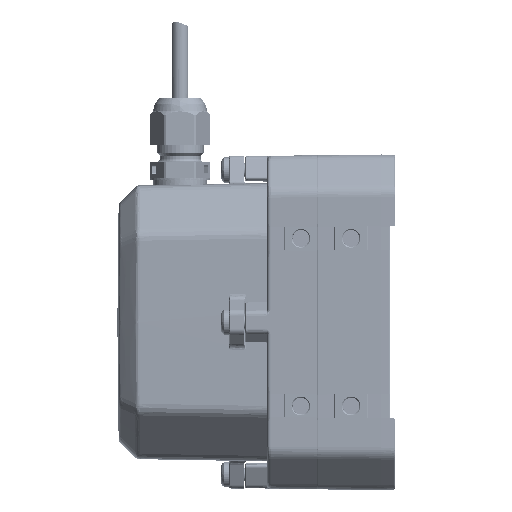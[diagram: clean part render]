
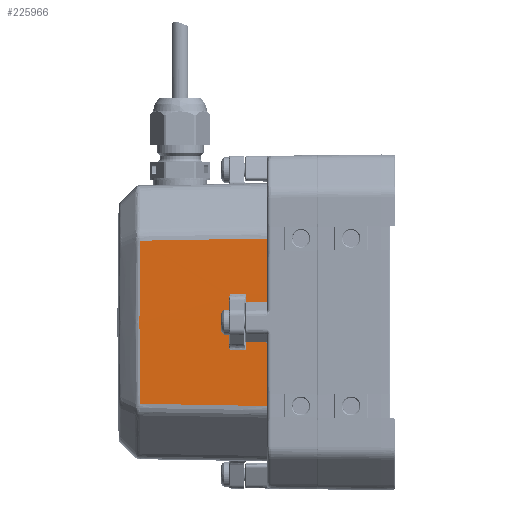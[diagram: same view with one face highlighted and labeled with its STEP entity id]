
A CAD part, front view. The second image highlights one B-rep face of the part: STEP entity #225966.
In plain terms, the highlighted conical face has half-angle 1 degrees and reference radius 2111.38 mm.
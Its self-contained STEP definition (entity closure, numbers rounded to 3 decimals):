
#1786=CARTESIAN_POINT('',(-14.8,2070.212,0.));
#1787=DIRECTION('',(1.,0.,0.));
#1788=DIRECTION('',(0.,-1.,0.012));
#1789=AXIS2_PLACEMENT_3D('',#1786,#1787,#1788);
#60704=CARTESIAN_POINT('',(-52.731,-40.698,
-24.32));
#60705=CARTESIAN_POINT('',(-48.518,-40.771,
-24.393));
#60706=CARTESIAN_POINT('',(-40.091,-40.916,
-24.539));
#60707=CARTESIAN_POINT('',(-27.448,-41.134,
-24.759));
#60708=CARTESIAN_POINT('',(-19.016,-41.28,
-24.906));
#60709=CARTESIAN_POINT('',(-14.8,-41.352,-24.979));
#60711=CARTESIAN_POINT('',(-52.731,-40.698,
-24.32));
#60712=CARTESIAN_POINT('',(-52.77,-40.728,
-21.617));
#60713=CARTESIAN_POINT('',(-52.836,-40.779,
-16.213));
#60714=CARTESIAN_POINT('',(-52.895,-40.825,
-8.103));
#60715=CARTESIAN_POINT('',(-52.908,-40.835,
-2.701));
#60716=CARTESIAN_POINT('',(-52.908,-40.835,
0.));
#60718=CARTESIAN_POINT('',(-52.908,-40.835,
0.));
#60719=CARTESIAN_POINT('',(-52.908,-40.835,
2.701));
#60720=CARTESIAN_POINT('',(-52.895,-40.825,
8.104));
#60721=CARTESIAN_POINT('',(-52.836,-40.779,
16.213));
#60722=CARTESIAN_POINT('',(-52.77,-40.728,
21.617));
#60723=CARTESIAN_POINT('',(-52.731,-40.698,
24.32));
#60725=CARTESIAN_POINT('',(-14.8,-41.352,24.979));
#60726=CARTESIAN_POINT('',(-19.016,-41.28,
24.906));
#60727=CARTESIAN_POINT('',(-27.448,-41.134,
24.759));
#60728=CARTESIAN_POINT('',(-40.091,-40.916,
24.539));
#60729=CARTESIAN_POINT('',(-48.518,-40.771,
24.393));
#60730=CARTESIAN_POINT('',(-52.731,-40.698,
24.32));
#60732=CARTESIAN_POINT('',(-26.297,2070.212,
0.));
#60733=DIRECTION('',(-1.,0.,0.));
#60734=DIRECTION('',(0.,-1.,-0.003));
#60735=AXIS2_PLACEMENT_3D('',#60732,#60733,#60734);
#60737=CARTESIAN_POINT('',(-25.903,-41.29,
-8.297));
#60738=CARTESIAN_POINT('',(-25.946,-41.289,
-8.208));
#60739=CARTESIAN_POINT('',(-26.026,-41.289,
-8.036));
#60740=CARTESIAN_POINT('',(-26.129,-41.288,
-7.796));
#60741=CARTESIAN_POINT('',(-26.207,-41.287,
-7.577));
#60742=CARTESIAN_POINT('',(-26.26,-41.287,
-7.378));
#60743=CARTESIAN_POINT('',(-26.29,-41.287,
-7.199));
#60744=CARTESIAN_POINT('',(-26.297,-41.287,
-7.093));
#60745=CARTESIAN_POINT('',(-26.297,-41.288,
-7.043));
#60747=CARTESIAN_POINT('',(-21.091,2070.212,
0.));
#60748=DIRECTION('',(1.,0.,0.));
#60749=DIRECTION('',(0.,-1.,0.004));
#60750=AXIS2_PLACEMENT_3D('',#60747,#60748,#60749);
#60752=CARTESIAN_POINT('',(-26.297,-41.288,
7.043));
#60753=CARTESIAN_POINT('',(-26.297,-41.287,
7.093));
#60754=CARTESIAN_POINT('',(-26.29,-41.287,
7.199));
#60755=CARTESIAN_POINT('',(-26.26,-41.287,
7.379));
#60756=CARTESIAN_POINT('',(-26.206,-41.287,
7.579));
#60757=CARTESIAN_POINT('',(-26.128,-41.288,
7.798));
#60758=CARTESIAN_POINT('',(-26.026,-41.289,
8.037));
#60759=CARTESIAN_POINT('',(-25.946,-41.289,
8.208));
#60760=CARTESIAN_POINT('',(-25.903,-41.29,
8.297));
#60779=CARTESIAN_POINT('',(-52.731,-40.698,
-24.32));
#63116=CARTESIAN_POINT('',(-25.903,-41.29,
8.297));
#63123=CARTESIAN_POINT('',(-25.903,-41.29,
8.297));
#63124=CARTESIAN_POINT('',(-24.299,-41.318,
8.315));
#63125=CARTESIAN_POINT('',(-22.695,-41.346,
8.333));
#63126=CARTESIAN_POINT('',(-21.091,-41.374,
8.351));
#63226=CARTESIAN_POINT('',(-21.091,-41.374,
-8.351));
#63227=CARTESIAN_POINT('',(-22.695,-41.346,
-8.333));
#63228=CARTESIAN_POINT('',(-24.299,-41.318,
-8.315));
#63229=CARTESIAN_POINT('',(-25.903,-41.29,
-8.297));
#78774=VERTEX_POINT('',#60779);
#78775=VERTEX_POINT('',#60716);
#78776=VERTEX_POINT('',#60723);
#78898=CARTESIAN_POINT('',(-26.297,-41.288,
-7.043));
#78899=CARTESIAN_POINT('',(-26.297,-41.288,
7.043));
#78900=VERTEX_POINT('',#78898);
#78901=VERTEX_POINT('',#78899);
#78946=CARTESIAN_POINT('',(-21.091,-41.374,
8.351));
#78947=CARTESIAN_POINT('',(-21.091,-41.374,
-8.351));
#78948=VERTEX_POINT('',#78946);
#78949=VERTEX_POINT('',#78947);
#79087=VERTEX_POINT('',#63116);
#79088=VERTEX_POINT('',#60737);
#79097=CARTESIAN_POINT('',(-14.8,-41.352,24.979));
#79098=CARTESIAN_POINT('',(-14.8,-41.352,-24.979));
#79099=VERTEX_POINT('',#79097);
#79100=VERTEX_POINT('',#79098);
#225937=CARTESIAN_POINT('',(-33.854,2070.212,
0.));
#225938=DIRECTION('',(1.,0.,0.));
#225939=DIRECTION('',(0.,-1.,0.));
#225940=AXIS2_PLACEMENT_3D('',#225937,#225938,#225939);
#225941=CONICAL_SURFACE('',#225940,2111.38,1.);
#225943=ORIENTED_EDGE('',*,*,#225942,.F.);
#225945=ORIENTED_EDGE('',*,*,#225944,.T.);
#225947=ORIENTED_EDGE('',*,*,#225946,.T.);
#225948=ORIENTED_EDGE('',*,*,#225915,.F.);
#225949=ORIENTED_EDGE('',*,*,#83845,.T.);
#225950=EDGE_LOOP('',(#225943,#225945,#225947,#225948,#225949));
#225951=FACE_OUTER_BOUND('',#225950,.F.);
#225953=ORIENTED_EDGE('',*,*,#225952,.F.);
#225955=ORIENTED_EDGE('',*,*,#225954,.F.);
#225957=ORIENTED_EDGE('',*,*,#225956,.F.);
#225959=ORIENTED_EDGE('',*,*,#225958,.F.);
#225961=ORIENTED_EDGE('',*,*,#225960,.F.);
#225963=ORIENTED_EDGE('',*,*,#225962,.F.);
#225964=EDGE_LOOP('',(#225953,#225955,#225957,#225959,#225961,#225963));
#225965=FACE_BOUND('',#225964,.F.);
#1790=CIRCLE('',#1789,2111.712);
#60710=B_SPLINE_CURVE_WITH_KNOTS('',3,(#60704,#60705,#60706,#60707,#60708,
#60709),.UNSPECIFIED.,.F.,.F.,(4,1,1,4),(0.,0.333,
0.667,1.),.UNSPECIFIED.);
#60717=B_SPLINE_CURVE_WITH_KNOTS('',3,(#60711,#60712,#60713,#60714,#60715,
#60716),.UNSPECIFIED.,.F.,.F.,(4,1,1,4),(0.,0.333,
0.667,1.),.UNSPECIFIED.);
#60724=B_SPLINE_CURVE_WITH_KNOTS('',3,(#60718,#60719,#60720,#60721,#60722,
#60723),.UNSPECIFIED.,.F.,.F.,(4,1,1,4),(0.,0.333,
0.667,1.),.UNSPECIFIED.);
#60731=B_SPLINE_CURVE_WITH_KNOTS('',3,(#60725,#60726,#60727,#60728,#60729,
#60730),.UNSPECIFIED.,.F.,.F.,(4,1,1,4),(0.,0.333,
0.667,1.),.UNSPECIFIED.);
#60736=CIRCLE('',#60735,2111.512);
#60746=B_SPLINE_CURVE_WITH_KNOTS('',3,(#60737,#60738,#60739,#60740,#60741,
#60742,#60743,#60744,#60745),.UNSPECIFIED.,.F.,.F.,(4,1,1,1,1,1,4),(0.,
0.167,0.333,0.5,0.667,0.833,
1.),.UNSPECIFIED.);
#60751=CIRCLE('',#60750,2111.603);
#60761=B_SPLINE_CURVE_WITH_KNOTS('',3,(#60752,#60753,#60754,#60755,#60756,
#60757,#60758,#60759,#60760),.UNSPECIFIED.,.F.,.F.,(4,1,1,1,1,1,4),(0.,
0.167,0.333,0.5,0.667,0.833,
1.),.UNSPECIFIED.);
#63127=B_SPLINE_CURVE_WITH_KNOTS('',3,(#63123,#63124,#63125,#63126),
.UNSPECIFIED.,.F.,.F.,(4,4),(0.,1.),.UNSPECIFIED.);
#63230=B_SPLINE_CURVE_WITH_KNOTS('',3,(#63226,#63227,#63228,#63229),
.UNSPECIFIED.,.F.,.F.,(4,4),(0.,1.),.UNSPECIFIED.);
#83845=EDGE_CURVE('',#79099,#79100,#1790,.T.);
#225915=EDGE_CURVE('',#79099,#78776,#60731,.T.);
#225942=EDGE_CURVE('',#78774,#79100,#60710,.T.);
#225944=EDGE_CURVE('',#78774,#78775,#60717,.T.);
#225946=EDGE_CURVE('',#78775,#78776,#60724,.T.);
#225952=EDGE_CURVE('',#78900,#78901,#60736,.T.);
#225954=EDGE_CURVE('',#79088,#78900,#60746,.T.);
#225956=EDGE_CURVE('',#78949,#79088,#63230,.T.);
#225958=EDGE_CURVE('',#78948,#78949,#60751,.T.);
#225960=EDGE_CURVE('',#79087,#78948,#63127,.T.);
#225962=EDGE_CURVE('',#78901,#79087,#60761,.T.);
#225966=ADVANCED_FACE('',(#225951,#225965),#225941,.T.);
